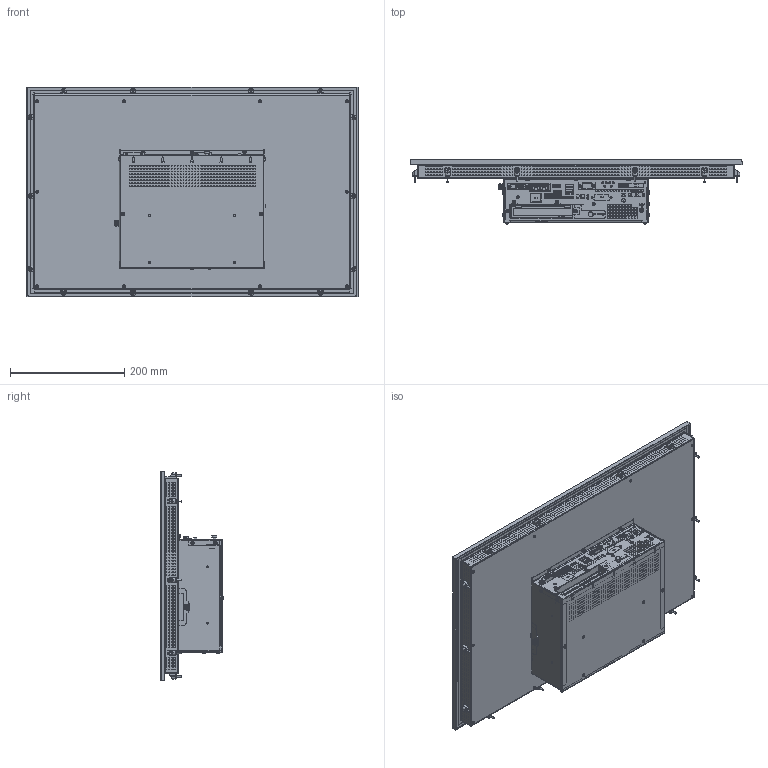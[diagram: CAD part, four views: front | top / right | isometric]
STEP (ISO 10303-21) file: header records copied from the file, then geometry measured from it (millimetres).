
FILE_DESCRIPTION((''),'2;1');
FILE_NAME('C6E22-Panel_215W_CAP_S1','2017-03-07T',('manpal'),(''),'PRO/ENGINEER BY PARAMETRIC TECHNOLOGY CORPORATION, 2013410','PRO/ENGINEER BY PARAMETRIC TECHNOLOGY CORPORATION, 2013410','');
FILE_SCHEMA(('AUTOMOTIVE_DESIGN { 1 0 10303 214 1 1 1 1 }'));
Products named in the file (2): C6E22-Panel_215W_CAP_S1_
Assembly tree (1 placements, depth 2):
  C6E22-Panel_215W_CAP_S1_
    C6E22-Panel_215W_CAP_S1_
Bounding box: 581.5 x 112.09 x 367.5 mm (x, y, z)
Surface area: 1245149.7 mm2 (no closed solid volume)
Topology: 0 solids, 394 shells, 5560 faces, 25578 edges, 20196 vertices
Faces by surface type: plane 4308, cylinder 744, cone 262, bspline 174, sphere 42, torus 28, extrusion 2
Entity records: 288387 total; most frequent: CARTESIAN_POINT 68178, DIRECTION 38107, ORIENTED_EDGE 36113, EDGE_CURVE 25534, VECTOR 20985, LINE 20983, VERTEX_POINT 20196, AXIS2_PLACEMENT_3D 8561
